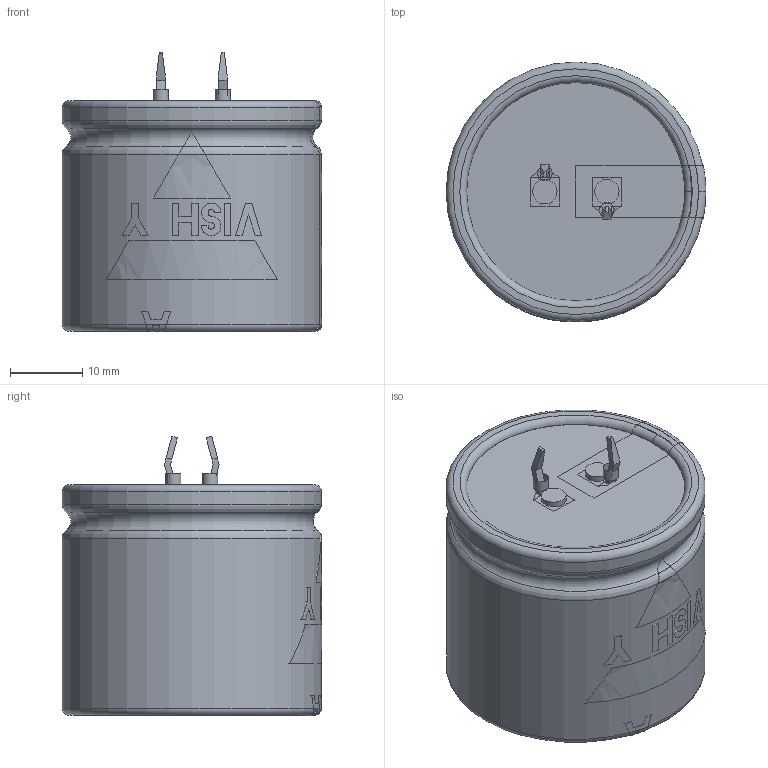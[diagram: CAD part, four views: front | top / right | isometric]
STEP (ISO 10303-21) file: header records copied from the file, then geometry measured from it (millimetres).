
FILE_DESCRIPTION(('FreeCAD Model'),'2;1');
FILE_NAME( 'C:/Users/Gebruiker/Documents/FreeCAD/SnapIn_35x30_2pin_5.8.step', '2020-11-12T20:36:04',('Author'),(''), 'Open CASCADE STEP processor 6.8','FreeCAD','Unknown');
FILE_SCHEMA(('AUTOMOTIVE_DESIGN_CC2 { 1 2 10303 214 -1 1 5 4 }'));
Length unit declared in the file: millimetre
Products named in the file (9): ASSEMBLY; TerminalMin; TerminalPlus; PCBHoles; Disc; BottomInsulation; Can3D; InkMinusBar; InkLogo
Assembly tree (8 placements, depth 2):
  ASSEMBLY
    TerminalMin
    TerminalPlus
    PCBHoles
    Disc
    BottomInsulation
    Can3D
    InkMinusBar
    InkLogo
Bounding box: 36.05 x 36.05 x 38.75 mm (x, y, z)
Volume: 37887.9 mm3; surface area: 15049 mm2
Topology: 16 solids, 16 shells, 192 faces, 466 edges, 305 vertices
Faces by surface type: plane 140, cylinder 31, torus 21
Full cylindrical faces by diameter (mm): 2 x2, 2.1 x2, 3.4 x2, 28.8 x2, 30.3 x1, 36 x2
Entity records: 21917 total; most frequent: CARTESIAN_POINT 11475, DIRECTION 1620, ORIENTED_EDGE 932, PCURVE 932, DEFINITIONAL_REPRESENTATION 932, LINE 871, VECTOR 871, EDGE_CURVE 466
